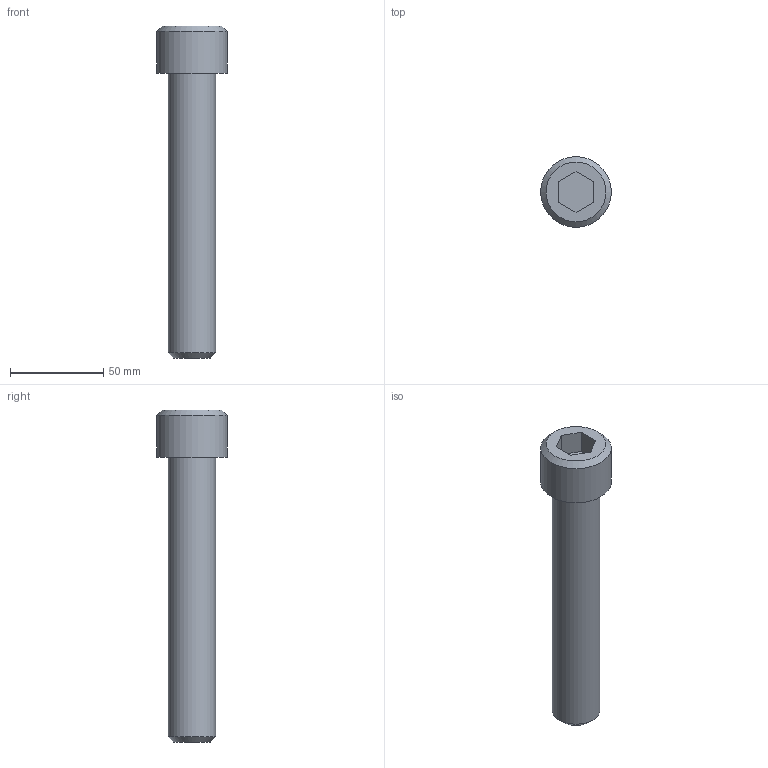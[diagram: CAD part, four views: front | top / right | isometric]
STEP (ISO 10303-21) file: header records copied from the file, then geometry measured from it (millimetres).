
FILE_DESCRIPTION((''),'2;1');
FILE_NAME('C:\Users\Stan\Desktop\import\SHCS 1-8 UNCx6.ipt.step','2011-08-18T17:44:23',(''),(''),'Autodesk Inventor 2012','Autodesk Inventor 2012','');
FILE_SCHEMA(('AUTOMOTIVE_DESIGN { 1 0 10303 214 1 1 1 1 }'));
Length unit declared in the file: inch
Products named in the file (1): SHCS 1-8 UNCx6
Bounding box: 37.8 x 37.8 x 177.65 mm (x, y, z)
Volume: 100815.2 mm3; surface area: 17873.8 mm2
Topology: 1 solids, 1 shells, 14 faces, 28 edges, 18 vertices
Faces by surface type: plane 10, cone 2, cylinder 2
Full cylindrical faces by diameter (mm): 25.4 x1, 37.795 x1
Entity records: 391 total; most frequent: DIRECTION 60, CARTESIAN_POINT 57, ORIENTED_EDGE 48, EDGE_CURVE 24, AXIS2_PLACEMENT_3D 21, EDGE_LOOP 20, VERTEX_POINT 18, VECTOR 18
